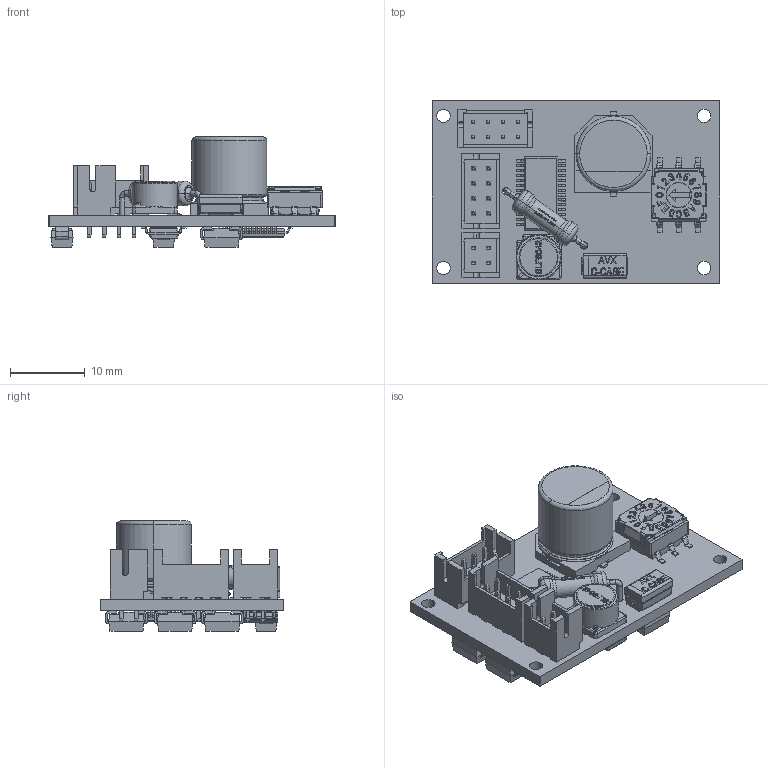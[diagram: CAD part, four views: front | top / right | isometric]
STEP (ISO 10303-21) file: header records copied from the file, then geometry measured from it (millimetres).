
FILE_DESCRIPTION (( 'STEP AP214' ), '1' );
FILE_NAME ('EZSV10_3D.step', '2016-01-19T19:58:59', ( '' ), ( '' ), 'SwSTEP 2.0', 'SolidWorks 2015', '' );
FILE_SCHEMA (( 'AUTOMOTIVE_DESIGN' ));
Length unit declared in the file: millimetre
Products named in the file (61): Assem11^10-0016_D06_3D; MANIFOLD_SOLID_BREP_3237; TIEBAR_M08A_2_ASM; Free-Models; MANIFOLD_SOLID_BREP_3086; M3; MANIFOLD_SOLID_BREP_2935; DF11-4DP-2DSA__X__8A__S__H__X__97__S___; MANIFOLD_SOLID_BREP_2784; M2; LEAD_M08A_57; DF11-8DP-2DSA__X__8A__S__H__X__97__S____2; BODY_M08A_35; M1; M15; DF11-8DP-2DSA__X__8A__S__H__X__97__S___; M12; M16; M5; M4; M10; M6_2284086778; Board; _SH-700-Without_knob_(Minus_slot); _SH-7050B_body; M6; M8; M7; M9; M11; EZSV10_3D; M08A_ASM_82_ASM
Assembly tree (38 placements, depth 7):
  MANIFOLD_SOLID_BREP_3237
  MANIFOLD_SOLID_BREP_3086
  MANIFOLD_SOLID_BREP_2935
  MANIFOLD_SOLID_BREP_2784
  LEAD_M08A_57
Bounding box: 38.33 x 24.56 x 14.73 mm (x, y, z)
Volume: 3371.1 mm3; surface area: 5625.8 mm2
Topology: 29 solids, 29 shells, 4504 faces, 12120 edges, 7762 vertices
Faces by surface type: plane 3406, cylinder 865, bspline 192, torus 31, sphere 6, cone 4
Entity records: 196415 total; most frequent: CARTESIAN_POINT 36533, ORIENTED_EDGE 23686, DIRECTION 21475, EDGE_CURVE 11843, LINE 9581, VECTOR 9581, VERTEX_POINT 7591, AXIS2_PLACEMENT_3D 5947
